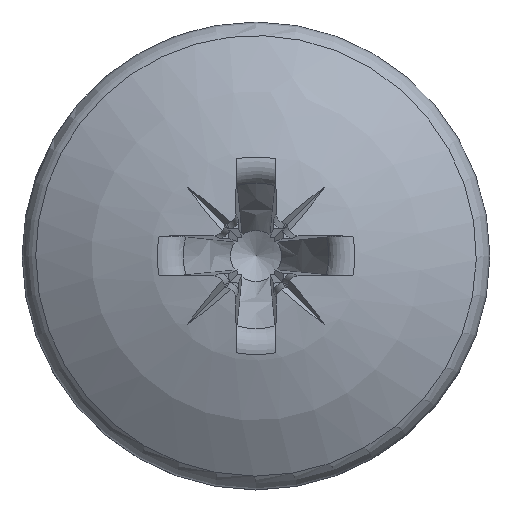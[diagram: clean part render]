
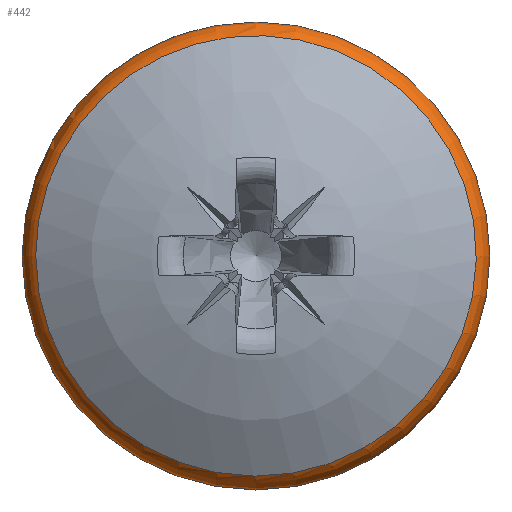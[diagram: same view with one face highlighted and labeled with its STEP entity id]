
A CAD part, top view. The second image highlights one B-rep face of the part: STEP entity #442.
In plain terms, the highlighted toroidal (fillet/blend) face has major radius 5.33 mm and minor radius 0.82 mm.
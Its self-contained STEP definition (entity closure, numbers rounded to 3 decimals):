
#348=TOROIDAL_SURFACE('',#1991,5.33,0.82);
#364=FACE_BOUND('',#684,.T.);
#365=FACE_BOUND('',#685,.T.);
#442=ADVANCED_FACE('',(#364,#365),#348,.T.);
#684=EDGE_LOOP('',(#1123));
#685=EDGE_LOOP('',(#1124));
#740=CIRCLE('',#1876,5.792);
#765=CIRCLE('',#1906,6.15);
#1123=ORIENTED_EDGE('',*,*,#1558,.F.);
#1124=ORIENTED_EDGE('',*,*,#1517,.F.);
#1351=VERTEX_POINT('',#3370);
#1390=VERTEX_POINT('',#3641);
#1517=EDGE_CURVE('',#1351,#1351,#740,.T.);
#1558=EDGE_CURVE('',#1390,#1390,#765,.T.);
#1876=AXIS2_PLACEMENT_3D('',#3369,#2009,#2010);
#1906=AXIS2_PLACEMENT_3D('',#3640,#2070,#2071);
#1991=AXIS2_PLACEMENT_3D('',#4072,#2300,#2301);
#2009=DIRECTION('',(0.,0.,1.));
#2010=DIRECTION('',(-1.,0.,0.));
#2070=DIRECTION('',(0.,0.,-1.));
#2071=DIRECTION('',(-1.,0.,0.));
#2300=DIRECTION('',(0.,0.,-1.));
#2301=DIRECTION('',(-1.,0.,0.));
#3369=CARTESIAN_POINT('',(0.,0.,3.315));
#3370=CARTESIAN_POINT('',(-5.792,0.,3.315));
#3640=CARTESIAN_POINT('',(0.,0.,2.638));
#3641=CARTESIAN_POINT('',(-6.15,0.,2.638));
#4072=CARTESIAN_POINT('',(0.,0.,2.638));
